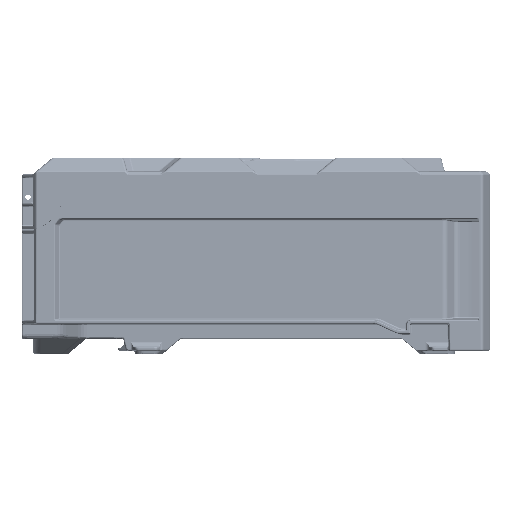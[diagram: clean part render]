
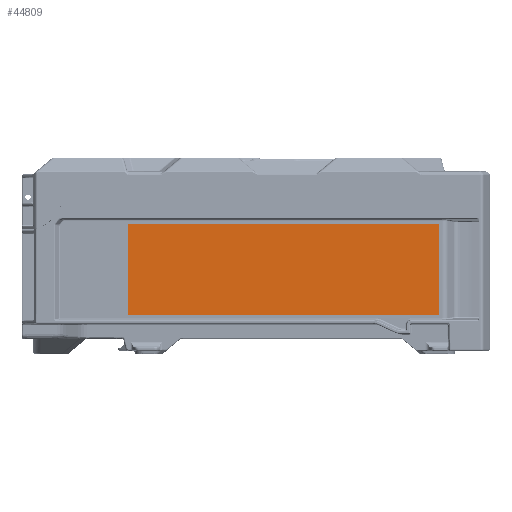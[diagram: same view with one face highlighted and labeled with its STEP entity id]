
A CAD part, left-side view. The second image highlights one B-rep face of the part: STEP entity #44809.
In plain terms, the highlighted planar face has unit normal (-1, 0, 0).
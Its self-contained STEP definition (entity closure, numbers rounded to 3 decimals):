
#30866=FACE_OUTER_BOUND('',#70655,.T.);
#44809=ADVANCED_FACE('',(#30866),#49408,.T.);
#49408=PLANE('',#241703);
#70655=EDGE_LOOP('',(#136761,#136762,#136763,#136764));
#136761=ORIENTED_EDGE('',*,*,#194385,.F.);
#136762=ORIENTED_EDGE('',*,*,#194382,.F.);
#136763=ORIENTED_EDGE('',*,*,#194420,.F.);
#136764=ORIENTED_EDGE('',*,*,#194388,.F.);
#162756=VERTEX_POINT('',#494050);
#162757=VERTEX_POINT('',#494052);
#162759=VERTEX_POINT('',#494058);
#162761=VERTEX_POINT('',#494064);
#194382=EDGE_CURVE('',#162756,#162757,#209266,.T.);
#194385=EDGE_CURVE('',#162757,#162759,#209269,.T.);
#194388=EDGE_CURVE('',#162759,#162761,#209272,.T.);
#194420=EDGE_CURVE('',#162761,#162756,#209299,.T.);
#209266=LINE('',#494051,#221469);
#209269=LINE('',#494057,#221472);
#209272=LINE('',#494063,#221475);
#209299=LINE('',#494126,#221507);
#221469=VECTOR('',#293918,1.);
#221472=VECTOR('',#293923,1.);
#221475=VECTOR('',#293928,1.);
#221507=VECTOR('',#294000,1.);
#241703=AXIS2_PLACEMENT_3D('',#494129,#294005,#294006);
#293918=DIRECTION('',(0.,0.,1.));
#293923=DIRECTION('',(0.,-1.,0.));
#293928=DIRECTION('',(0.,0.,-1.));
#294000=DIRECTION('',(0.,1.,0.));
#294005=DIRECTION('',(-1.,0.,0.));
#294006=DIRECTION('',(0.,0.,-1.));
#494050=CARTESIAN_POINT('',(-217.623,-28.093,-81.25));
#494051=CARTESIAN_POINT('',(-217.623,-28.093,-47.5));
#494052=CARTESIAN_POINT('',(-217.623,-28.093,-13.75));
#494057=CARTESIAN_POINT('',(-217.623,-143.093,-13.75));
#494058=CARTESIAN_POINT('',(-217.623,-258.093,-13.75));
#494063=CARTESIAN_POINT('',(-217.623,-258.093,-47.5));
#494064=CARTESIAN_POINT('',(-217.623,-258.093,-81.25));
#494126=CARTESIAN_POINT('',(-217.623,-143.093,-81.25));
#494129=CARTESIAN_POINT('',(-217.623,50.,0.));
